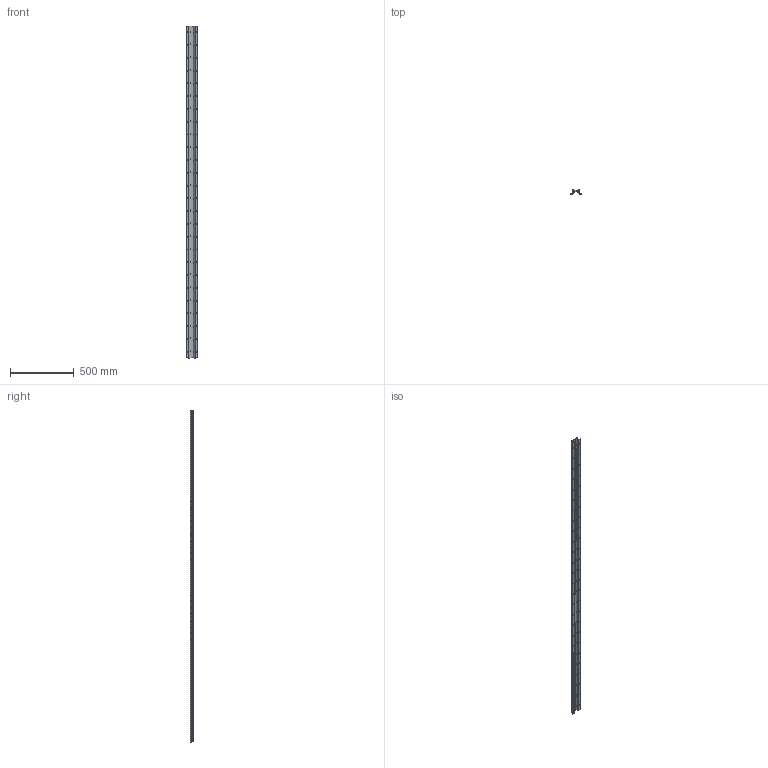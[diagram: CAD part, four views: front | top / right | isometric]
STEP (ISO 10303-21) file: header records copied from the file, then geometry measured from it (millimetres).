
FILE_DESCRIPTION (( 'STEP AP203' ), '1' );
FILE_NAME ('LF 3_-_LF 2 2598 mm lang.step', '2005-06-03T06:33:02', ( ' ' ), ( ' ' ), 'SwSTEP 2.0', 'SolidWorks 2004231', '' );
FILE_SCHEMA (( 'CONFIG_CONTROL_DESIGN' ));
Length unit declared in the file: millimetre
Products named in the file (1): LF 3_-_LF 2  2598 mm lang
Bounding box: 90 x 31 x 2598 mm (x, y, z)
Volume: 2720972.7 mm3; surface area: 837580.7 mm2
Topology: 1 solids, 1 shells, 1172 faces, 2942 edges, 1768 vertices
Faces by surface type: cylinder 550, plane 414, cone 104, torus 104
Entity records: 35375 total; most frequent: CARTESIAN_POINT 9159, ORIENTED_EDGE 5676, DIRECTION 5044, EDGE_CURVE 2838, AXIS2_PLACEMENT_3D 1813, VERTEX_POINT 1768, VECTOR 1418, LINE 1418
